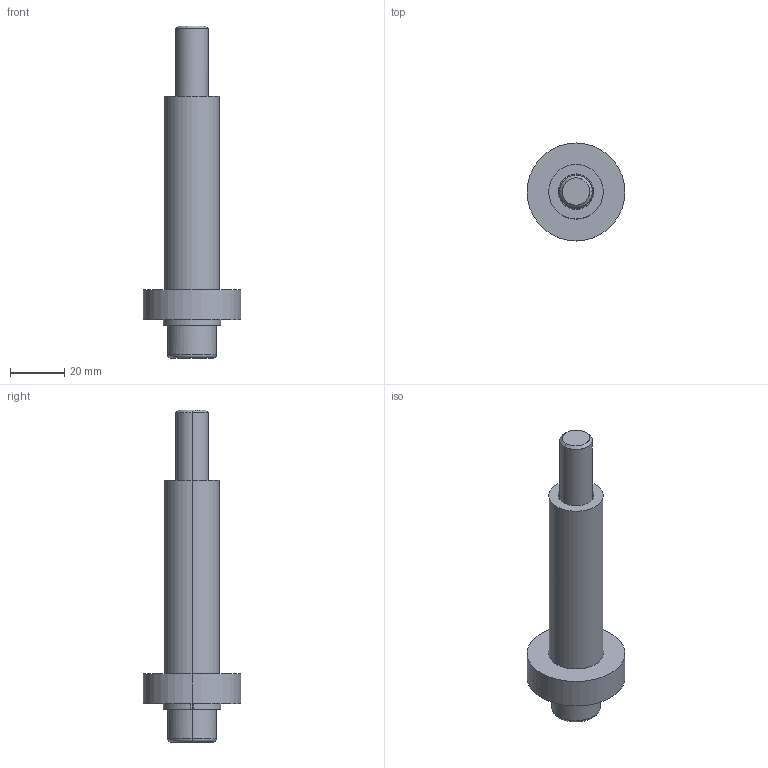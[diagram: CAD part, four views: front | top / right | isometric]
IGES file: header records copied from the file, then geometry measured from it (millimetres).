
Start section: START RECORD GO HERE.
Global section: file name: M312-08-12.igs; native system: DASSAULT SYSTEMES CATIA V5 R20 - www.3ds.com; preprocessor: CATIA Version 5 Release 20 ; author: Utente; organization: NB04-ASUS; date: 20201204.202849; units: millimetre
Bounding box: 36 x 36 x 122 mm (x, y, z)
Surface area: 16422.8 mm2 (no closed solid volume)
Topology: 0 solids, 0 shells, 50 faces, 226 edges, 224 vertices
Faces by surface type: revolution 28, plane 22
